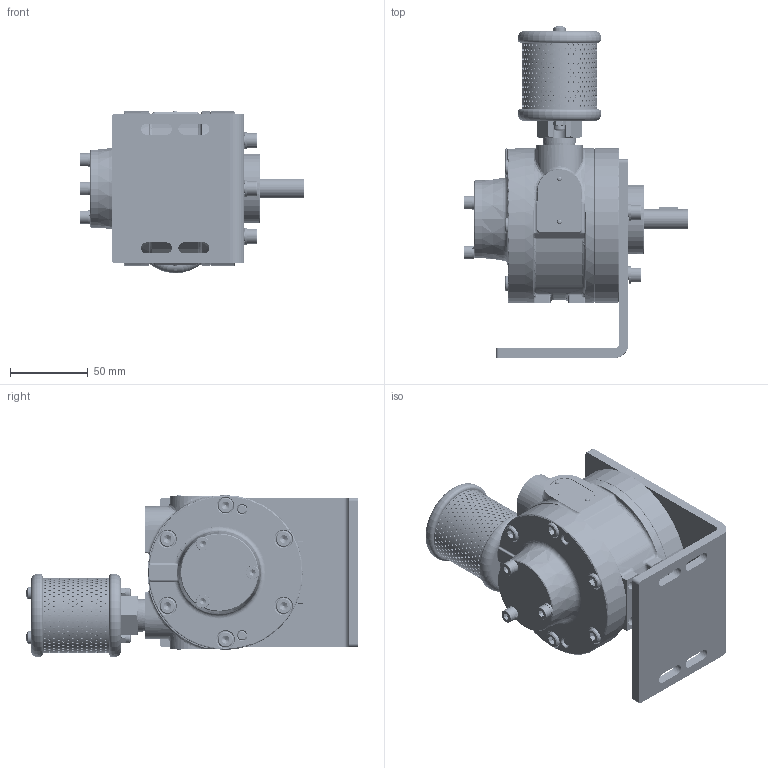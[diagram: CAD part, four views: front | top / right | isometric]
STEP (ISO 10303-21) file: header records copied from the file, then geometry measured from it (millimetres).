
FILE_DESCRIPTION (( 'STEP AP214' ), '1' );
FILE_NAME ('4VMS (Foot)_Solid 29-07-25.STEP', '2025-07-29T11:27:30', ( '' ), ( '' ), 'SwSTEP 2.0', 'SolidWorks 2017', '' );
FILE_SCHEMA (( 'AUTOMOTIVE_DESIGN' ));
Length unit declared in the file: millimetre
Products named in the file (2): 4VMS (Foot)_Solid 29-07-25
Bounding box: 144.03 x 212.85 x 104.05 mm (x, y, z)
Volume: 772984.3 mm3; surface area: 277538.1 mm2
Topology: 85 solids, 85 shells, 4920 faces, 12721 edges, 7915 vertices
Faces by surface type: cylinder 2549, cone 1062, plane 900, torus 257, bspline 138, sphere 14
Entity records: 279690 total; most frequent: CARTESIAN_POINT 107411, ORIENTED_EDGE 25166, DIRECTION 22291, EDGE_CURVE 12583, AXIS2_PLACEMENT_3D 8726, VERTEX_POINT 7915, EDGE_LOOP 6652, UNCERTAINTY_MEASURE_WITH_UNIT 5007
